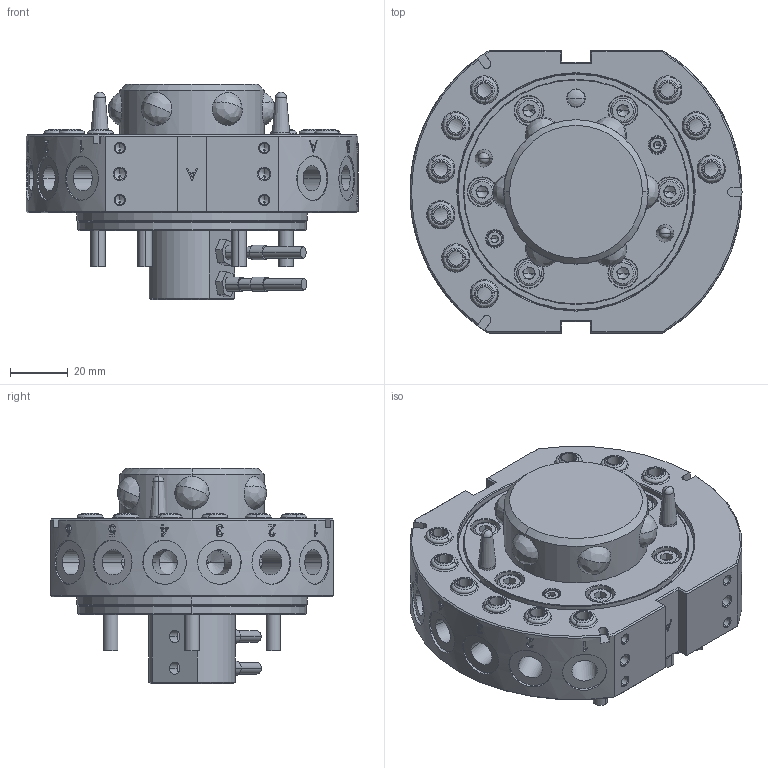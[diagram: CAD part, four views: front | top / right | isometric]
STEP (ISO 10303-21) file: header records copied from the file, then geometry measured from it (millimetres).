
FILE_DESCRIPTION (( 'STEP AP203' ), '1' );
FILE_NAME ('QCA-50R-S.STEP', '2024-03-19T08:23:33', ( '微软用户' ), ( '微软中国' ), 'SwSTEP 2.0', 'SolidWorks 2018', '' );
FILE_SCHEMA (( 'CONFIG_CONTROL_DESIGN' ));
Length unit declared in the file: millimetre
Products named in the file (1): QCA-50R-S
Bounding box: 115 x 98 x 74.5 mm (x, y, z)
Surface area: 57626.1 mm2 (no closed solid volume)
Topology: 0 solids, 15 shells, 1262 faces, 2882 edges, 1721 vertices
Faces by surface type: cone 395, plane 381, cylinder 365, bspline 115, torus 6
Entity records: 42377 total; most frequent: CARTESIAN_POINT 14132, DIRECTION 6121, ORIENTED_EDGE 5616, EDGE_CURVE 2810, AXIS2_PLACEMENT_3D 2376, VERTEX_POINT 1721, EDGE_LOOP 1449, VECTOR 1369
